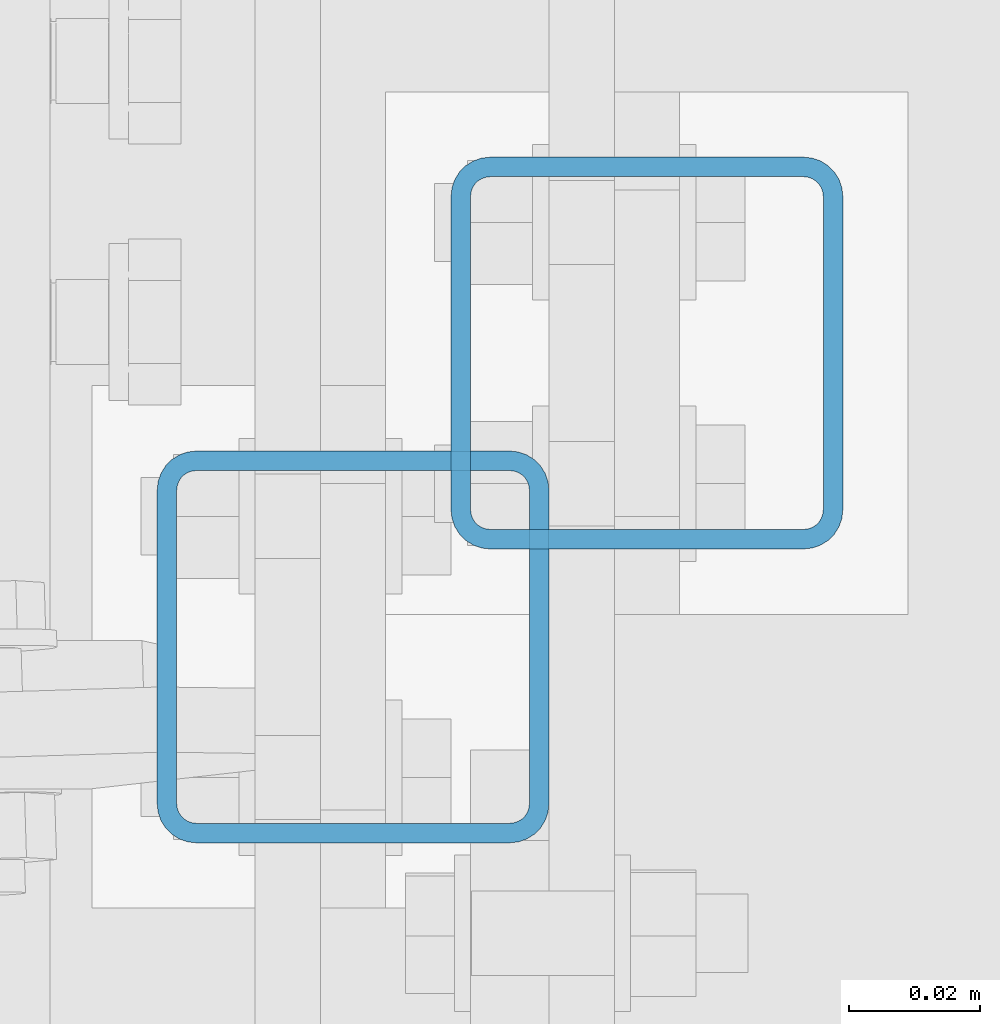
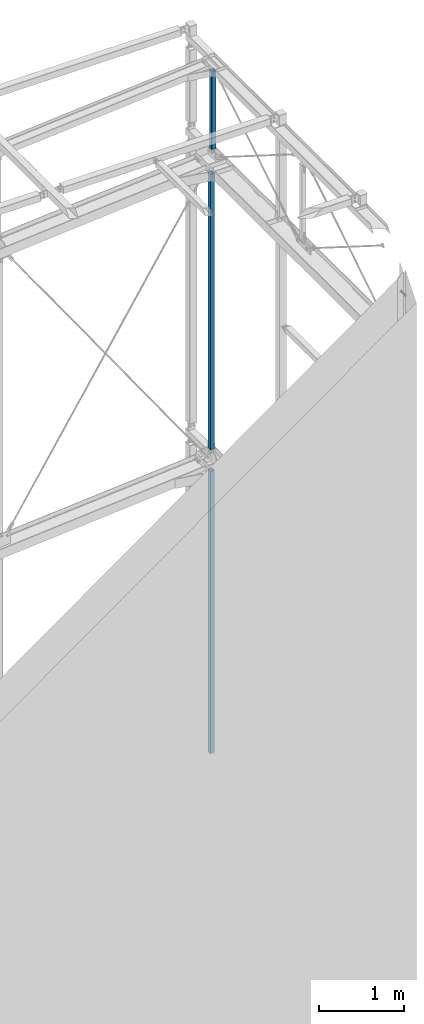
# One storey, part 56 of 271: 3 beams, 3 elements without a shape of their own.
"""IFC2X3 building model written with IfcOpenShell, lengths in millimetres."""

from ifc_helpers import new_model, si_unit, frame, origin_with_axes, origin_2d_with_axis, place, context, subcontext, project, spatial, hollow_rectangle, extrude, clip, halfspace, material, type_object, element, aggregate, save


model = new_model("IFC2X3")

# Units and contexts
model_context = context("Model", 3, precision=1e-05, world=origin_with_axes())
body_context = subcontext(model_context, "Body", "Model", "MODEL_VIEW")
ifc_project = project(units=[si_unit("LENGTHUNIT", "METRE", prefix="MILLI"), si_unit("AREAUNIT", "SQUARE_METRE"), si_unit("VOLUMEUNIT", "CUBIC_METRE"), si_unit("MASSUNIT", "GRAM", prefix="KILO"), si_unit("TIMEUNIT", "SECOND"), si_unit("PLANEANGLEUNIT", "RADIAN"), si_unit("SOLIDANGLEUNIT", "STERADIAN"), si_unit("THERMODYNAMICTEMPERATUREUNIT", "DEGREE_CELSIUS"), si_unit("LUMINOUSINTENSITYUNIT", "LUMEN")], contexts=[model_context])

# Site, building, storey
site_placement = place(None, origin_with_axes())
site = spatial("IfcSite", under=ifc_project, at=site_placement, Name="Undefined", CompositionType="ELEMENT")
building_placement = place(site_placement, origin_with_axes())
building = spatial("IfcBuilding", under=site, at=building_placement, Name="Undefined", CompositionType="ELEMENT")
storey_placement = place(building_placement, origin_with_axes())
storey = spatial("IfcBuildingStorey", under=building, at=storey_placement, Name="Undefined", CompositionType="ELEMENT", Elevation=0.0)

# Assembly, beam
assembly_1_placement = place(storey_placement, origin_with_axes())
assembly_1 = element("IfcElementAssembly", 1, at=assembly_1_placement, inside=storey, AssemblyPlace="NOTDEFINED", PredefinedType="RIGID_FRAME")
ifc_material = material(Name="STEEL/S355JR")
beam_type = type_object("IfcBeamType", Name="SHS60*3", PredefinedType="NOTDEFINED")
beam_1_placement = place(assembly_1_placement, frame((12618.751374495, 4337.19355050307, 18644.3499999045), z_axis=(0.0, 1.0, 0.0), x_axis=(0.0, 0.0, 1.0)))
beam_1 = element("IfcBeam", 2, at=beam_1_placement, type_object=beam_type, material=ifc_material, Name="TĘŻNIK", ObjectType="SHS60*3", context=body_context, shape_type="Clipping", body=[
    clip(clip(extrude(hollow_rectangle(XDim=60.0, YDim=60.0, WallThickness=3.0, InnerFilletRadius=3.0, OuterFilletRadius=6.0, at=origin_2d_with_axis()), frame((1360.0, 0.0, 0.0), z_axis=(-1.0, 0.0, 1.38777878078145e-17), x_axis=(0.0, -1.0, 0.0)), (0.0, 0.0, 1.0), 1360.0), halfspace(frame((1249.3499999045, -15.0, 0.0), z_axis=(-1.0, 0.0, 1.38777878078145e-17), x_axis=(0.0, 0.0, -1.0)), True)), halfspace(frame((131.299999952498, -15.0, 0.0), z_axis=(1.0, 0.0, 0.0), x_axis=(0.0, 0.0, 1.0)), True)),
])
aggregate(assembly_1, [beam_1])

assembly_2_placement = place(storey_placement, origin_with_axes())
assembly_2 = element("IfcElementAssembly", 3, at=assembly_2_placement, inside=storey, AssemblyPlace="NOTDEFINED", PredefinedType="RIGID_FRAME")
beam_2_placement = place(assembly_2_placement, frame((12573.751374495, 4292.19355050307, 14324.3499999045), z_axis=(0.0, 1.0, 0.0), x_axis=(0.0, 0.0, 1.0)))
beam_2 = element("IfcBeam", 4, at=beam_2_placement, type_object=beam_type, material=ifc_material, Name="TĘŻNIK", ObjectType="SHS60*3", context=body_context, shape_type="Clipping", body=[
    clip(clip(extrude(hollow_rectangle(XDim=60.0, YDim=60.0, WallThickness=3.0, InnerFilletRadius=3.0, OuterFilletRadius=6.0, at=origin_2d_with_axis()), frame((4320.0, 0.0, 9.09494701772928e-13), z_axis=(-1.0, 0.0, 1.38777878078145e-17), x_axis=(0.0, -1.0, 0.0)), (0.0, 0.0, 1.0), 4320.0), halfspace(frame((4138.7000000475, -15.0, 0.0), z_axis=(-1.0, 0.0, 1.38777878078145e-17), x_axis=(0.0, 0.0, -1.0)), True)), halfspace(frame((181.2999999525, -15.0, 0.0), z_axis=(1.0, 0.0, 0.0), x_axis=(0.0, 0.0, 1.0)), True)),
])
aggregate(assembly_2, [beam_2])

assembly_3_placement = place(storey_placement, origin_with_axes())
assembly_3 = element("IfcElementAssembly", 5, at=assembly_3_placement, inside=storey, AssemblyPlace="NOTDEFINED", PredefinedType="RIGID_FRAME")
beam_3_placement = place(assembly_3_placement, frame((12573.751374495, 4292.19355050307, 10004.3499999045), z_axis=(0.0, 1.0, 0.0), x_axis=(0.0, 0.0, 1.0)))
beam_3 = element("IfcBeam", 6, at=beam_3_placement, type_object=beam_type, material=ifc_material, Name="TĘŻNIK", ObjectType="SHS60*3", context=body_context, shape_type="Clipping", body=[
    clip(clip(extrude(hollow_rectangle(XDim=60.0, YDim=60.0, WallThickness=3.0, InnerFilletRadius=3.0, OuterFilletRadius=6.0, at=origin_2d_with_axis()), frame((4320.0, 0.0, 9.09494701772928e-13), z_axis=(-1.0, 0.0, 1.38777878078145e-17), x_axis=(0.0, -1.0, 0.0)), (0.0, 0.0, 1.0), 4320.0), halfspace(frame((4188.7000000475, -15.0, 0.0), z_axis=(-1.0, 0.0, 1.38777878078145e-17), x_axis=(0.0, 0.0, -1.0)), True)), halfspace(frame((131.299999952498, -15.0, 0.0), z_axis=(1.0, 0.0, 0.0), x_axis=(0.0, 0.0, 1.0)), True)),
])
aggregate(assembly_3, [beam_3])

save(model, "model.ifc")
